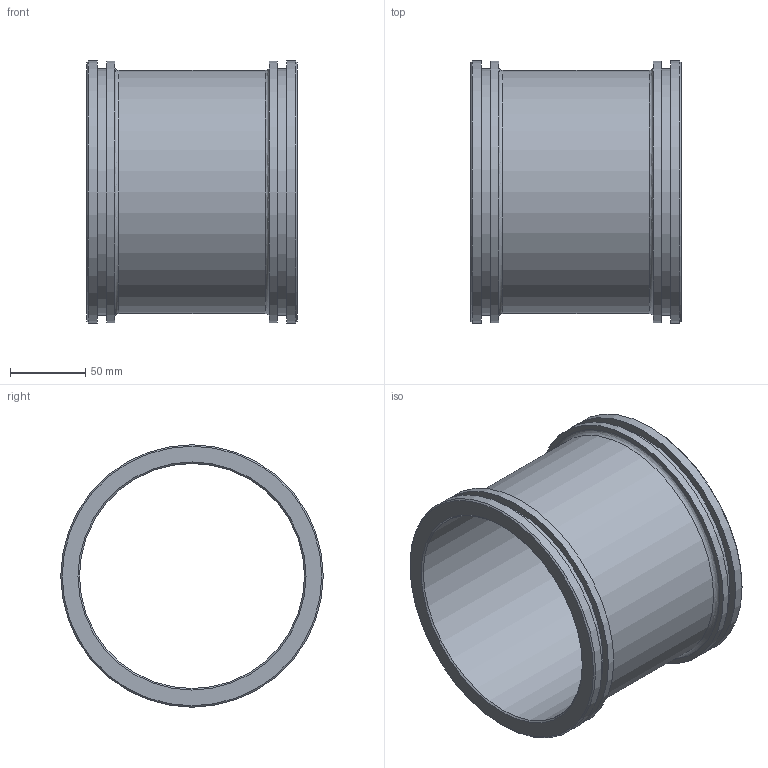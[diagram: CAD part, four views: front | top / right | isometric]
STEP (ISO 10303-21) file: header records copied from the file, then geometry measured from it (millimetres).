
FILE_DESCRIPTION((''),'2;1');
FILE_NAME('N:\CAD\ARCHIV\5350 (-999)\Standardhülsen\5350.150.140\Kundenteil 3D\5350.150.140 für Kunden.stp','2009-03-05T08:41:48',('HWalkhoff'),(''),'Autodesk Inventor 2009','Autodesk Inventor 2009','');
FILE_SCHEMA(('AUTOMOTIVE_DESIGN { 1 0 10303 214 1 1 1 1 }'));
Length unit declared in the file: millimetre
Products named in the file (1): Hülse für Kunden
Bounding box: 140 x 175 x 175 mm (x, y, z)
Volume: 501735.4 mm3; surface area: 166290.7 mm2
Topology: 1 solids, 1 shells, 22 faces, 36 edges, 22 vertices
Faces by surface type: cylinder 8, plane 8, cone 4, bspline 2
Full cylindrical faces by diameter (mm): 150 x1, 162 x1, 164.34 x2, 174.5 x2, 175 x2
Entity records: 554 total; most frequent: CARTESIAN_POINT 155, DIRECTION 86, ORIENTED_EDGE 44, EDGE_LOOP 44, AXIS2_PLACEMENT_3D 43, VERTEX_POINT 22, CIRCLE 22, EDGE_CURVE 22
